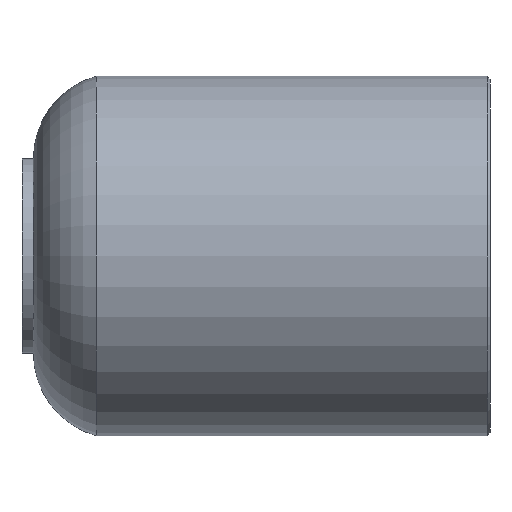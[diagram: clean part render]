
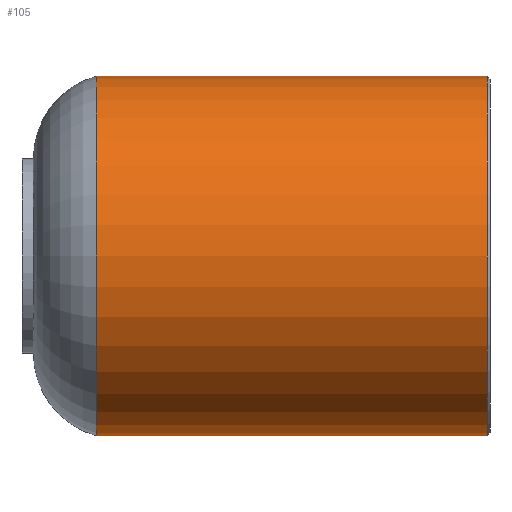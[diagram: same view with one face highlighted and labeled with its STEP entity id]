
A CAD part, front view. The second image highlights one B-rep face of the part: STEP entity #105.
In plain terms, the highlighted cylindrical face has radius 31.5 mm (diameter 63 mm), a full revolution.
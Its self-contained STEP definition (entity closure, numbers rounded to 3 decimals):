
#24=CYLINDRICAL_SURFACE('',#131,31.5);
#32=ORIENTED_EDGE('',*,*,#46,.T.);
#33=ORIENTED_EDGE('',*,*,#45,.F.);
#45=EDGE_CURVE('',#53,#53,#61,.T.);
#46=EDGE_CURVE('',#54,#54,#62,.F.);
#53=VERTEX_POINT('',#188);
#54=VERTEX_POINT('',#191);
#61=CIRCLE('',#130,31.5);
#62=CIRCLE('',#132,31.5);
#72=EDGE_LOOP('',(#32));
#73=EDGE_LOOP('',(#33));
#88=FACE_BOUND('',#72,.T.);
#89=FACE_BOUND('',#73,.T.);
#105=ADVANCED_FACE('',(#88,#89),#24,.T.);
#130=AXIS2_PLACEMENT_3D('',#187,#156,#157);
#131=AXIS2_PLACEMENT_3D('',#189,#158,#159);
#132=AXIS2_PLACEMENT_3D('',#190,#160,#161);
#156=DIRECTION('',(-1.,0.,0.));
#157=DIRECTION('',(0.,0.,1.));
#158=DIRECTION('',(-1.,0.,0.));
#159=DIRECTION('',(0.,0.,1.));
#160=DIRECTION('',(1.,0.,0.));
#161=DIRECTION('',(0.,0.,-1.));
#187=CARTESIAN_POINT('',(-34.5,0.,0.));
#188=CARTESIAN_POINT('',(-34.5,0.,31.5));
#189=CARTESIAN_POINT('',(-26.,0.,0.));
#190=CARTESIAN_POINT('',(34.,0.,0.));
#191=CARTESIAN_POINT('',(34.,0.,-31.5));
